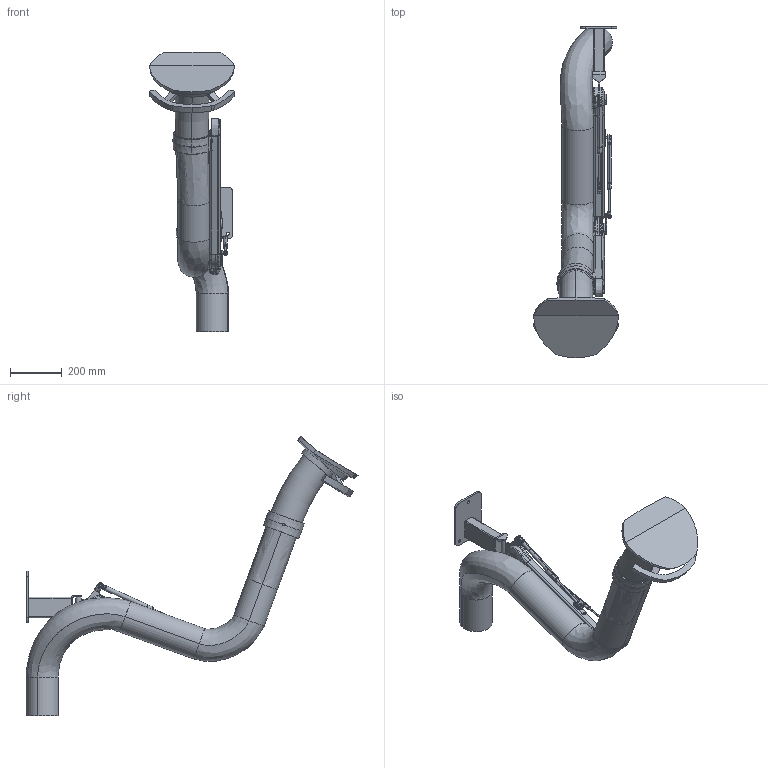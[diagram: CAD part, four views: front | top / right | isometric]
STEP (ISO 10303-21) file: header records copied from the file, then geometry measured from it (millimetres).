
FILE_DESCRIPTION((''),'2;1');
FILE_NAME('PR1500-125_135801','2017-12-20T',('Tomas Bellgran'),(''),'CREO PARAMETRIC BY PTC INC, 2016130','CREO PARAMETRIC BY PTC INC, 2016130','');
FILE_SCHEMA(('AUTOMOTIVE_DESIGN { 1 0 10303 214 1 1 1 1 }'));
Length unit declared in the file: millimetre
Products named in the file (43): 100-6300-01; 100-6300-02; 100-6300-04; 100-6300; 102677; 100-5506_L_LIGHT; 100-5506_R_LIGHT; 100-5506; 100-5404-L_LIGHT; 100-5404-R_LIGHT; 100-5404; 100-5914; 100-5913; 100-5915; 122221; 102678; 100-5512-L_LIGHT; 100-512-R_LIGHT; 100-5512; 122220; 102715; 100-5911; 100-5518; 100-6305-2; 100-6305-1; 100-6305; 134110; 100-5721_LIGHT; 100-5822_LIGHT; 100-5862A_LIGHT; 100-5865A_LIGHT; 126055_AF2; 100-6341-125; 135844; 135583; STAB_K4-D4; 130367; 102118-REF; 135586; 130369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
Assembly tree (46 placements, depth 5):
  PR1500-125_135801
    100-6300
      100-6300-01
      100-6300-02
      100-6300-04
    134110
      122221
        102677
        100-5506
          100-5506_L_LIGHT
          100-5506_R_LIGHT
        100-5404
          100-5404-L_LIGHT
          100-5404-R_LIGHT
        100-5915  x2
          100-5914
          100-5913
      122220
        102678
        100-5512
          100-5512-L_LIGHT
          100-512-R_LIGHT
      100-5518
        102715
        100-5911
      100-6305
        100-6305-2
        100-6305-1
        100-5911
    100-5721_LIGHT
    100-6341-125
      100-5822_LIGHT
      100-5862A_LIGHT
      100-5865A_LIGHT
      126055_AF2
    135844
    130367
      135583
      STAB_K4-D4
    102118-REF
    130369
      135586
      STAB_K4-D4
    102845-REF
      GAS_SPRING_ROD_STABILUS
      STAB_K4-D4
Bounding box: 328.82 x 1284.28 x 1081.81 mm (x, y, z)
Volume: 6853476.3 mm3; surface area: 2330137 mm2
Topology: 34 solids, 35 shells, 844 faces, 2036 edges, 1259 vertices
Faces by surface type: cylinder 273, plane 270, cone 118, bspline 78, torus 75, sphere 26, extrusion 4
Entity records: 42276 total; most frequent: CARTESIAN_POINT 10757, DIRECTION 3754, ORIENTED_EDGE 3530, EDGE_CURVE 1765, PROPERTY_DEFINITION 1698, REPRESENTATION 1670, PROPERTY_DEFINITION_REPRESENTATION 1670, AXIS2_PLACEMENT_3D 1511
